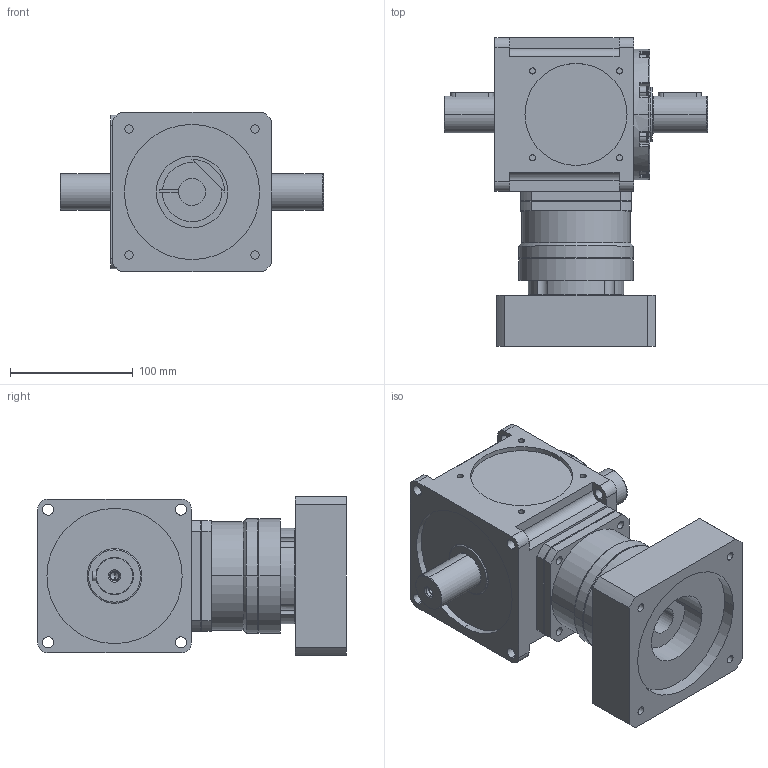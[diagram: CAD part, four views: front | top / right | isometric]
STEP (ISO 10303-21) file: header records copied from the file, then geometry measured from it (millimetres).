
FILE_DESCRIPTION (( 'STEP AP214' ), '1' );
FILE_NAME ('CCW125A-L1(6~20)-2P 22-110-145-M8.STEP', '2025-06-03T03:16:13', ( '微软用户' ), ( '微软中国' ), 'SwSTEP 2.0', 'SolidWorks 2024', '' );
FILE_SCHEMA (( 'AUTOMOTIVE_DESIGN' ));
Length unit declared in the file: millimetre
Products named in the file (3): CCW125A-L1(6~20)-2P 22-110-145-M8; CCW125A-002-2P箱体; VRB-090-L1-S2-P1 22-110-145-M8
Assembly tree (2 placements, depth 2):
  CCW125A-L1(6~20)-2P 22-110-145-M8
    CCW125A-002-2P箱体
    VRB-090-L1-S2-P1 22-110-145-M8
Bounding box: 214 x 251 x 130 mm (x, y, z)
Volume: 2877616.5 mm3; surface area: 225651.8 mm2
Topology: 4 solids, 4 shells, 529 faces, 1249 edges, 765 vertices
Faces by surface type: cylinder 214, plane 193, torus 55, cone 51, sphere 16
Entity records: 15330 total; most frequent: DIRECTION 2874, CARTESIAN_POINT 2661, ORIENTED_EDGE 2454, EDGE_CURVE 1227, AXIS2_PLACEMENT_3D 1140, VERTEX_POINT 765, EDGE_LOOP 612, CIRCLE 606
